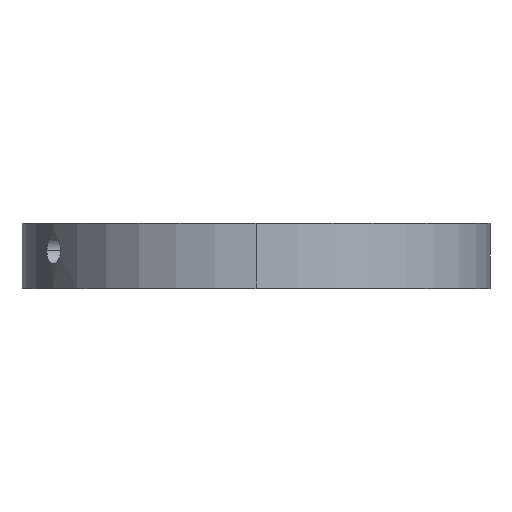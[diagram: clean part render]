
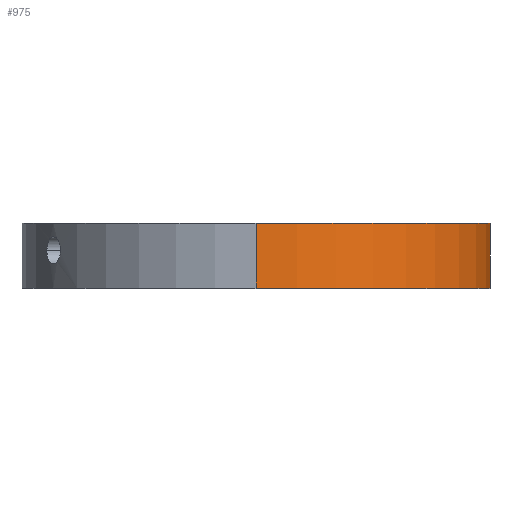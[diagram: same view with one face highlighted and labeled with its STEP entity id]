
A CAD part, top view. The second image highlights one B-rep face of the part: STEP entity #975.
In plain terms, the highlighted cylindrical face has radius 21.6 mm (diameter 43.2 mm), a partial arc.
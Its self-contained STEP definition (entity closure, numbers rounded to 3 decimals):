
#70 = CIRCLE ( 'NONE', #460, 21.6 ) ;
#74 = CARTESIAN_POINT ( 'NONE',  ( 0., -6.5, -21.6 ) ) ;
#127 = CARTESIAN_POINT ( 'NONE',  ( 0., -6.5, 0. ) ) ;
#161 = DIRECTION ( 'NONE',  ( 0., -1., 0. ) ) ;
#312 = DIRECTION ( 'NONE',  ( 0., -1., 0. ) ) ;
#414 = CARTESIAN_POINT ( 'NONE',  ( 0., -0.5, 0. ) ) ;
#459 = CARTESIAN_POINT ( 'NONE',  ( 0., -0.5, -21.6 ) ) ;
#460 = AXIS2_PLACEMENT_3D ( 'NONE', #414, #1793, #906 ) ;
#535 = FACE_OUTER_BOUND ( 'NONE', #2031, .T. ) ;
#627 = DIRECTION ( 'NONE',  ( 0., -1., 0. ) ) ;
#629 = EDGE_CURVE ( 'NONE', #1569, #1654, #1300, .T. ) ;
#726 = EDGE_CURVE ( 'NONE', #1928, #1569, #1247, .T. ) ;
#738 = ORIENTED_EDGE ( 'NONE', *, *, #1379, .T. ) ;
#791 = LINE ( 'NONE', #1351, #1817 ) ;
#835 = EDGE_CURVE ( 'NONE', #1987, #1654, #791, .T. ) ;
#865 = DIRECTION ( 'NONE',  ( 0., -1., 0. ) ) ;
#906 = DIRECTION ( 'NONE',  ( 0., 0., -1. ) ) ;
#972 = CARTESIAN_POINT ( 'NONE',  ( 0., -0.5, 21.6 ) ) ;
#975 = ADVANCED_FACE ( 'NONE', ( #535 ), #1727, .T. ) ;
#1008 = AXIS2_PLACEMENT_3D ( 'NONE', #127, #627, #2010 ) ;
#1076 = ORIENTED_EDGE ( 'NONE', *, *, #835, .T. ) ;
#1167 = CARTESIAN_POINT ( 'NONE',  ( 0., -21., -21.6 ) ) ;
#1247 = LINE ( 'NONE', #1167, #1648 ) ;
#1300 = CIRCLE ( 'NONE', #1008, 21.6 ) ;
#1301 = ORIENTED_EDGE ( 'NONE', *, *, #726, .F. ) ;
#1351 = CARTESIAN_POINT ( 'NONE',  ( 0., -21., 21.6 ) ) ;
#1360 = ORIENTED_EDGE ( 'NONE', *, *, #629, .F. ) ;
#1379 = EDGE_CURVE ( 'NONE', #1928, #1987, #70, .T. ) ;
#1544 = AXIS2_PLACEMENT_3D ( 'NONE', #1570, #865, #2066 ) ;
#1569 = VERTEX_POINT ( 'NONE', #74 ) ;
#1570 = CARTESIAN_POINT ( 'NONE',  ( 0., -21., 0. ) ) ;
#1648 = VECTOR ( 'NONE', #161, 1000. ) ;
#1654 = VERTEX_POINT ( 'NONE', #2002 ) ;
#1727 = CYLINDRICAL_SURFACE ( 'NONE', #1544, 21.6 ) ;
#1793 = DIRECTION ( 'NONE',  ( 0., -1., 0. ) ) ;
#1817 = VECTOR ( 'NONE', #312, 1000. ) ;
#1928 = VERTEX_POINT ( 'NONE', #459 ) ;
#1987 = VERTEX_POINT ( 'NONE', #972 ) ;
#2002 = CARTESIAN_POINT ( 'NONE',  ( 0., -6.5, 21.6 ) ) ;
#2010 = DIRECTION ( 'NONE',  ( 0., 0., -1. ) ) ;
#2031 = EDGE_LOOP ( 'NONE', ( #738, #1076, #1360, #1301 ) ) ;
#2066 = DIRECTION ( 'NONE',  ( 0., 0., -1. ) ) ;
